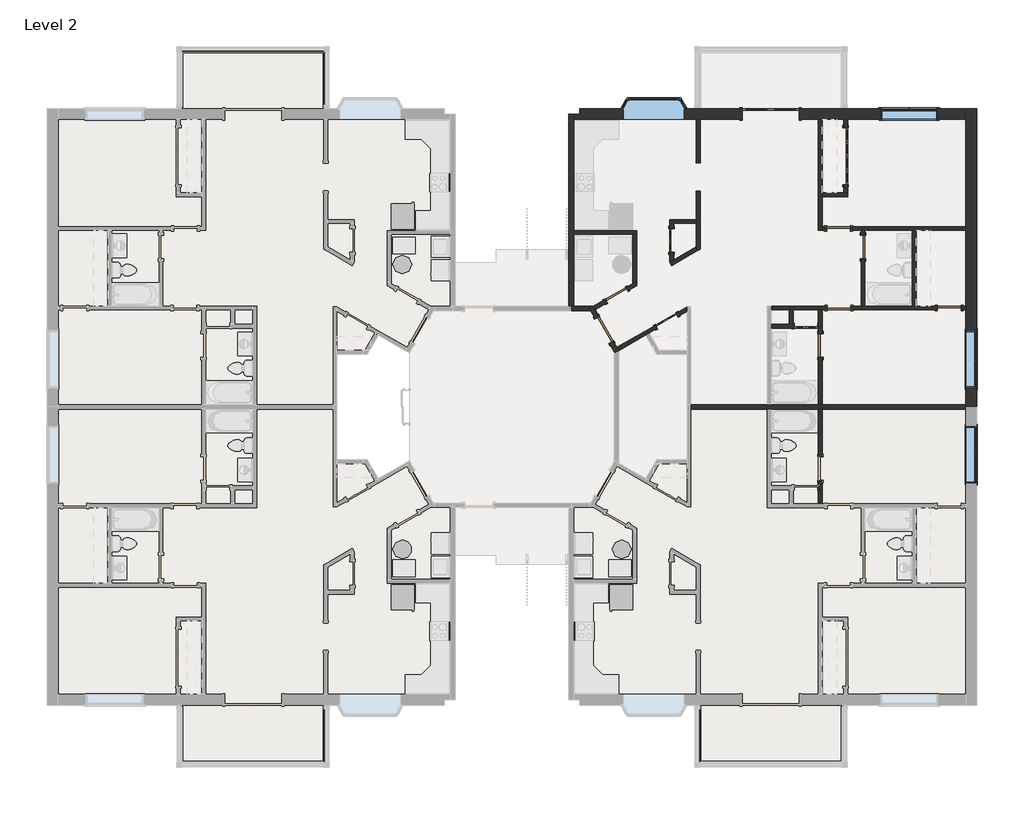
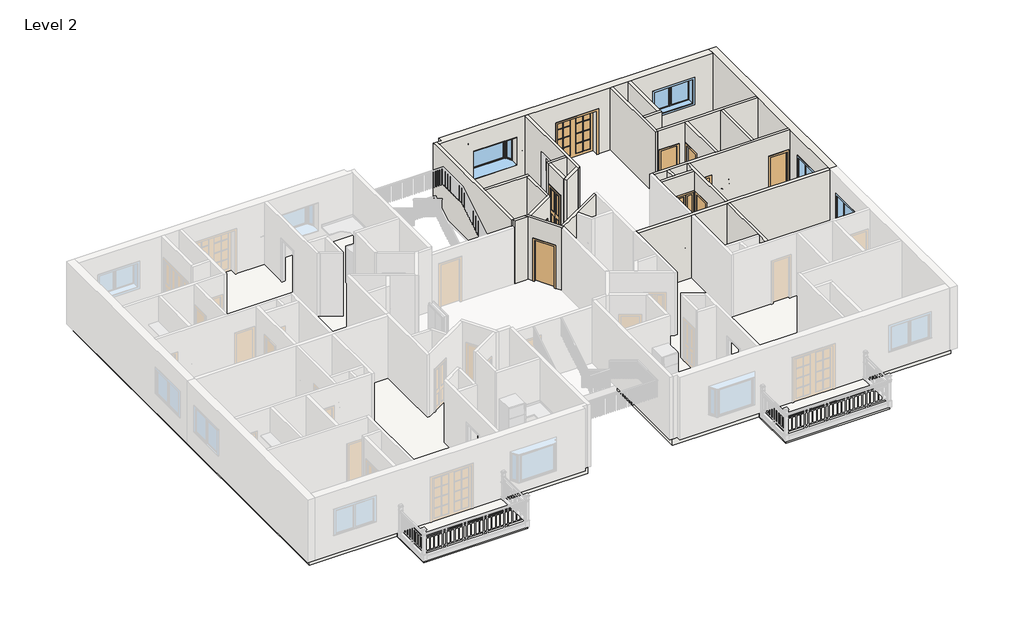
# One storey, part 4 of 5: 25 walls, 12 doors, 4 windows, 3 slabs.
"""IFC4 building model written with IfcOpenShell, lengths in millimetres."""

from ifc_helpers import new_model, si_unit, frame, origin, place, context, project, spatial, polyline, outline, extrude, faceted_brep, transform, mapped, element, save
from components import door_28b41c19, door_77c9d7c5, door_c95ce901, door_0a477ef8, door_91cbdfe0, door_39079f6b, door_140ee3fe, window_fb9100aa, window_565d5888, window_801eb773

model = new_model("IFC4")

# Units and contexts
model_context = context("Model", 3, world=origin())
ifc_project = project(units=[si_unit("LENGTHUNIT", "METRE", prefix="MILLI")], contexts=[model_context])

# Site, building, storey
site = spatial("IfcSite", under=ifc_project)
building = spatial("IfcBuilding", under=site)
storey = spatial("IfcBuildingStorey", under=building, Name="Level 2", Elevation=3048.0)

# Doors
placement = place(None, origin())
door_shape = door_28b41c19(model_context)
element("IfcDoor", 1, ObjectType="Bifold-2 Panel : 30\" x 80\"", at=placement, inside=storey, context=model_context, shape_type="MappedRepresentation", body=[
    mapped(door_shape, transform((8842.0499602, 4399.2713201, 3048.0), x_axis=(1.0, 0.0, 0.0), y_axis=(0.0, 1.0, 0.0), z_axis=(0.0, 0.0, 1.0))),
])
door_2_shape = door_77c9d7c5(model_context)
element("IfcDoor", 2, ObjectType="Bifold-2 Panel : 30\" x 80\"", at=placement, inside=storey, context=model_context, shape_type="MappedRepresentation", body=[
    mapped(door_2_shape, transform((4512.9374602, 7161.5213201, 3048.0), x_axis=(0.0, 1.0, 0.0), y_axis=(-1.0, 0.0, 0.0), z_axis=(0.0, 0.0, 1.0))),
])
element("IfcDoor", 3, ObjectType="Bifold-2 Panel : 30\" x 80\"", at=placement, inside=storey, context=model_context, shape_type="MappedRepresentation", body=[
    mapped(door_2_shape, transform((4356.3593145, 4569.8411376, 3048.0), x_axis=(0.8660254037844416, 0.4999999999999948, 0.0), y_axis=(-0.4999999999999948, 0.8660254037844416, 0.0), z_axis=(0.0, 0.0, 1.0))),
])
door_3_shape = door_c95ce901(model_context)
element("IfcDoor", 4, ObjectType="Bifold-4 Panel : 72\" x 80\"", at=placement, inside=storey, context=model_context, shape_type="MappedRepresentation", body=[
    mapped(door_3_shape, transform((10123.1624602, 9879.3213201, 3048.0), x_axis=(0.0, -1.0, 0.0), y_axis=(1.0, 0.0, 0.0), z_axis=(0.0, 0.0, 1.0))),
])
door_4_shape = door_0a477ef8(model_context)
element("IfcDoor", 5, ObjectType="Double-Glass 2 : 72\" x 84\"", at=placement, inside=storey, context=model_context, shape_type="MappedRepresentation", body=[
    mapped(door_4_shape, transform((7708.5749602, 11238.2213201, 3048.0), x_axis=(1.0, 0.0, 0.0), y_axis=(0.0, 1.0, 0.0), z_axis=(0.0, 0.0, 1.0))),
])
door_5_shape = door_91cbdfe0(model_context)
element("IfcDoor", 6, ObjectType="Single-Flush : 30\" x 80\"", at=placement, inside=storey, context=model_context, shape_type="MappedRepresentation", body=[
    mapped(door_5_shape, transform((9889.7999602, 7545.6963201, 3048.0), x_axis=(-1.0, 0.0, 0.0), y_axis=(0.0, -1.0, 0.0), z_axis=(0.0, 0.0, 1.0))),
])
element("IfcDoor", 7, ObjectType="Single-Flush : 30\" x 80\"", at=placement, inside=storey, context=model_context, shape_type="MappedRepresentation", body=[
    mapped(door_5_shape, transform((2740.2368992, 5400.5472723, 3048.0), x_axis=(-0.866025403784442, -0.49999999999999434, 0.0), y_axis=(0.49999999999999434, -0.866025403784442, 0.0), z_axis=(0.0, 0.0, 1.0))),
])
element("IfcDoor", 8, ObjectType="Single-Flush : 30\" x 80\"", at=placement, inside=storey, context=model_context, shape_type="MappedRepresentation", body=[
    mapped(door_5_shape, transform((10685.1374602, 6950.3838201, 3048.0), x_axis=(0.0, 1.0, 0.0), y_axis=(-1.0, 0.0, 0.0), z_axis=(0.0, 0.0, 1.0))),
])
door_6_shape = door_39079f6b(model_context)
element("IfcDoor", 9, ObjectType="Single-Flush : 30\" x 80\"", at=placement, inside=storey, context=model_context, shape_type="MappedRepresentation", body=[
    mapped(door_6_shape, transform((9905.6749602, 4983.4713201, 3048.0), x_axis=(-1.0, 0.0, 0.0), y_axis=(0.0, -1.0, 0.0), z_axis=(0.0, 0.0, 1.0))),
])
element("IfcDoor", 10, ObjectType="Single-Flush : 30\" x 80\"", at=placement, inside=storey, context=model_context, shape_type="MappedRepresentation", body=[
    mapped(door_6_shape, transform((9310.3624602, 3775.3838201, 3048.0), x_axis=(0.0, 1.0, 0.0), y_axis=(-1.0, 0.0, 0.0), z_axis=(0.0, 0.0, 1.0))),
])
element("IfcDoor", 11, ObjectType="Single-Flush : 30\" x 80\"", at=placement, inside=storey, context=model_context, shape_type="MappedRepresentation", body=[
    mapped(door_6_shape, transform((13461.6749602, 4983.4713201, 3048.0), x_axis=(1.0, 0.0, 0.0), y_axis=(0.0, 1.0, 0.0), z_axis=(0.0, 0.0, 1.0))),
])
door_7_shape = door_140ee3fe(model_context)
element("IfcDoor", 12, ObjectType="Single-Flush : 36\" x 80\"", at=placement, inside=storey, context=model_context, shape_type="MappedRepresentation", body=[
    mapped(door_7_shape, transform((2339.4553258, 4278.6213201, 3048.0), x_axis=(0.4999999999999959, -0.866025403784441, 0.0), y_axis=(0.866025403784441, 0.4999999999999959, 0.0), z_axis=(0.0, 0.0, 1.0))),
])

# Slabs
element("IfcSlab", 13, ObjectType="Generic - 12\"", at=placement, inside=storey, context=model_context, shape_type="SweptSolid", body=[
    extrude(outline(polyline([(-11387.4625398, -7635.5661799), (-15424.4750398, -7635.5661799), (-15424.4750398, 1744.9713201), (-6331.2750398, 1744.9713201), (-6331.2750398, 41.0951778), (-5327.4917096, 41.0951778), (-4955.4044712, -603.3788241), (-3977.9107726, -39.0225741), (-3207.8085908, -1372.8786799), (-2589.5375398, -1372.8786799), (-2589.5375398, -7635.5661799), (-6578.9250398, -7635.5661799), (-6578.9250398, -9769.1661799), (-11387.4625398, -9769.1661799), (-11387.4625398, -7635.5661799)])), frame((0.0, 0.0, 2743.2), z_axis=(0.0, 0.0, 1.0), x_axis=(1.0, 0.0, 0.0)), (0.0, 0.0, 1.0), 304.8),
])
element("IfcSlab", 14, ObjectType="Generic - 12\"", at=placement, inside=storey, context=model_context, shape_type="SweptSolid", body=[
    extrude(outline(polyline([(-11387.4625398, 11227.1088201), (-11387.4625398, 13360.7088201), (-6578.9250398, 13360.7088201), (-6578.9250398, 11227.1088201), (-2589.5375398, 11227.1088201), (-2589.5375398, 4964.4213201), (-3207.8085908, 4964.4213201), (-3977.9107726, 3630.5652142), (-4955.4044712, 4194.9214642), (-5327.4917096, 3550.4474624), (-6331.2750398, 3550.4474624), (-6331.2750398, 1846.5713201), (-15424.4750398, 1846.5713201), (-15424.4750398, 11227.1088201), (-11387.4625398, 11227.1088201)])), frame((0.0, 0.0, 2743.2), z_axis=(0.0, 0.0, 1.0), x_axis=(1.0, 0.0, 0.0)), (0.0, 0.0, 1.0), 304.8),
])
element("IfcSlab", 15, ObjectType="Generic - 12\"", at=placement, inside=storey, context=model_context, shape_type="SweptSolid", body=[
    extrude(outline(polyline([(10123.1624602, -7635.5661799), (10123.1624602, -9769.1661799), (5314.6249602, -9769.1661799), (5314.6249602, -7635.5661799), (1325.2374602, -7635.5661799), (1325.2374602, -1372.8786799), (1943.5085112, -1372.8786799), (2713.610693, -39.0225741), (3691.1043915, -603.3788241), (4063.19163, 41.0951778), (5066.9749602, 41.0951778), (5066.9749602, 1744.9713201), (14160.1749602, 1744.9713201), (14160.1749602, -7635.5661799), (10123.1624602, -7635.5661799)])), frame((0.0, 0.0, 2743.2), z_axis=(0.0, 0.0, 1.0), x_axis=(1.0, 0.0, 0.0)), (0.0, 0.0, 1.0), 304.8),
])

# Walls
element("IfcWall", 16, ObjectType="Exterior - Brick on Mtl. Stud", at=placement, inside=storey, context=model_context, shape_type="Brep", body=[
    faceted_brep([(13995.0749602, 11414.4338201, 3048.0), (8622.9749602, 11414.4338201, 3048.0), (8622.9749602, 11414.4338201, 5181.6), (6794.1749602, 11414.4338201, 5181.6), (6794.1749602, 11414.4338201, 3048.0), (1549.0749602, 11414.4338201, 3048.0), (1549.0749602, 11414.4338201, 6096.0), (6794.1749602, 11414.4338201, 6096.0), (8622.9749602, 11414.4338201, 6096.0), (13995.0749602, 11414.4338201, 6096.0), (4995.4531942, 11414.4338201, 5181.6), (2887.3374602, 11414.4338201, 5181.6), (2887.3374602, 11414.4338201, 3810.0), (4995.4531942, 11414.4338201, 3810.0), (13086.2312102, 11414.4338201, 5181.6), (11257.4312102, 11414.4338201, 5181.6), (11257.4312102, 11414.4338201, 3962.4), (13086.2312102, 11414.4338201, 3962.4), (8622.9749602, 11062.0088201, 5181.6), (8622.9749602, 11062.0088201, 3048.0), (9248.4499602, 11062.0088201, 3048.0), (9372.2749602, 11062.0088201, 3048.0), (10061.2499602, 11062.0088201, 3048.0), (10185.0749602, 11062.0088201, 3048.0), (13995.0749602, 11062.0088201, 3048.0), (13995.0749602, 11062.0088201, 6096.0), (10185.0749602, 11062.0088201, 6096.0), (10061.2499602, 11062.0088201, 6096.0), (9372.2749602, 11062.0088201, 6096.0), (9248.4499602, 11062.0088201, 6096.0), (8622.9749602, 11062.0088201, 6096.0), (6794.1749602, 11062.0088201, 6096.0), (5438.4499602, 11062.0088201, 6096.0), (5314.6249602, 11062.0088201, 6096.0), (1549.0749602, 11062.0088201, 6096.0), (1352.2249602, 11062.0088201, 6096.0), (1352.2249602, 11062.0088201, 3048.0), (1549.0749602, 11062.0088201, 3048.0), (5314.6249602, 11062.0088201, 3048.0), (5438.4499602, 11062.0088201, 3048.0), (6794.1749602, 11062.0088201, 3048.0), (6794.1749602, 11062.0088201, 5181.6), (2954.6373002, 11062.0088201, 5181.6), (4928.2376202, 11062.0088201, 5181.6), (4928.2376202, 11062.0088201, 3810.0), (2954.6373002, 11062.0088201, 3810.0), (13086.2312102, 11062.0088201, 5181.6), (13086.2312102, 11062.0088201, 3962.4), (11257.4312102, 11062.0088201, 3962.4), (11257.4312102, 11062.0088201, 5181.6), (1352.2249602, 11238.2213201, 3048.0), (1549.0749602, 11238.2213201, 3048.0), (1549.0749602, 11238.2213201, 6096.0), (1352.2249602, 11238.2213201, 6096.0), (2954.6373002, 11375.4830814, 5181.6), (4928.2376202, 11375.5317324, 5181.6), (2954.6373002, 11375.4830814, 3810.0), (4928.2376202, 11375.5317324, 3810.0)], [[[0, 1, 2, 3, 4, 5, 6, 7, 8, 9], [10, 11, 12, 13], [14, 15, 16, 17]], [[18, 19, 20, 21, 22, 23, 24, 25, 26, 27, 28, 29, 30, 31, 32, 33, 34, 35, 36, 37, 38, 39, 40, 41], [42, 43, 44, 45], [46, 47, 48, 49]], [[24, 23, 22, 21, 20, 19, 1, 0]], [[40, 39, 38, 37, 36, 50, 51, 5, 4]], [[9, 8, 7, 6, 52, 53, 35, 34, 33, 32, 31, 30, 29, 28, 27, 26, 25]], [[0, 9, 25, 24]], [[6, 5, 51, 52]], [[51, 50, 53, 52]], [[50, 36, 35, 53]], [[2, 1, 19, 18]], [[3, 2, 18, 41]], [[4, 3, 41, 40]], [[54, 11, 10, 55, 43, 42]], [[56, 45, 44, 57, 13, 12]], [[54, 42, 45, 56]], [[43, 55, 57, 44]], [[55, 10, 13, 57]], [[11, 54, 56, 12]], [[47, 46, 14, 17]], [[48, 47, 17, 16]], [[49, 48, 16, 15]], [[46, 49, 15, 14]]]),
])
element("IfcWall", 17, ObjectType="Exterior - Brick on Mtl. Stud", at=placement, inside=storey, context=model_context, shape_type="Brep", body=[
    faceted_brep([(14347.4999602, 1795.7713201, 3048.0), (14347.4999602, 11414.4338201, 3048.0), (14347.4999602, 11414.4338201, 6096.0), (14347.4999602, 1795.7713201, 6096.0), (14347.4999602, 2421.2463201, 5181.6), (14347.4999602, 4250.0463201, 5181.6), (14347.4999602, 4250.0463201, 3962.4), (14347.4999602, 2421.2463201, 3962.4), (13995.0749602, 1795.7713201, 3048.0), (13995.0749602, 1795.7713201, 6096.0), (13995.0749602, 1873.5588201, 6096.0), (13995.0749602, 4921.5588201, 6096.0), (13995.0749602, 5045.3838201, 6096.0), (13995.0749602, 7483.7838201, 6096.0), (13995.0749602, 7607.6088201, 6096.0), (13995.0749602, 11062.0088201, 6096.0), (13995.0749602, 11414.4338201, 6096.0), (13995.0749602, 11414.4338201, 3048.0), (13995.0749602, 11062.0088201, 3048.0), (13995.0749602, 7607.6088201, 3048.0), (13995.0749602, 7483.7838201, 3048.0), (13995.0749602, 5045.3838201, 3048.0), (13995.0749602, 4921.5588201, 3048.0), (13995.0749602, 1873.5588201, 3048.0), (13995.0749602, 2421.2463201, 5181.6), (13995.0749602, 2421.2463201, 3962.4), (13995.0749602, 4250.0463201, 3962.4), (13995.0749602, 4250.0463201, 5181.6)], [[[0, 1, 2, 3], [4, 5, 6, 7]], [[8, 9, 10, 11, 12, 13, 14, 15, 16, 17, 18, 19, 20, 21, 22, 23], [24, 25, 26, 27]], [[1, 0, 8, 23, 22, 21, 20, 19, 18, 17]], [[3, 2, 16, 15, 14, 13, 12, 11, 10, 9]], [[0, 3, 9, 8]], [[2, 1, 17, 16]], [[25, 24, 4, 7]], [[26, 25, 7, 6]], [[27, 26, 6, 5]], [[24, 27, 5, 4]]]),
])
element("IfcWall", 18, ObjectType="Generic - 6\" Masonry", at=placement, inside=storey, context=model_context, shape_type="Brep", body=[
    faceted_brep([(1819.7751316, 5035.8588201, 3048.0), (1352.2249602, 5035.8588201, 3048.0), (1274.4374602, 5035.8588201, 3048.0), (1274.4374602, 5035.8588201, 5791.2), (1274.4374602, 5035.8588201, 6096.0), (1352.2249602, 5035.8588201, 6096.0), (1819.7751316, 5035.8588201, 6096.0), (1902.2640513, 4892.9838201, 3048.0), (1902.2640513, 4892.9838201, 6096.0), (1274.4374602, 4892.9838201, 6096.0), (1274.4374602, 4892.9838201, 5791.2), (1274.4374602, 4892.9838201, 3048.0)], [[[0, 1, 2, 3, 4, 5, 6]], [[7, 8, 9, 10, 11]], [[2, 1, 0, 7, 11]], [[4, 3, 2, 11, 10, 9]], [[6, 5, 4, 9, 8]], [[0, 6, 8, 7]]]),
])
element("IfcWall", 19, ObjectType="Generic - 6\" Masonry", at=placement, inside=storey, context=model_context, shape_type="Brep", body=[
    faceted_brep([(2810.4023827, 3605.7920898, 3048.0), (2748.4898827, 3713.0276854, 3048.0), (2629.9220156, 3918.3932555, 3048.0), (2629.9220156, 3918.3932555, 5080.0), (2172.7220156, 4710.2868847, 5080.0), (2172.7220156, 4710.2868847, 3048.0), (2046.665471, 4928.6232245, 3048.0), (1984.752971, 5035.8588201, 3048.0), (1984.752971, 5035.8588201, 6096.0), (2046.665471, 4928.6232245, 6096.0), (2748.4898827, 3713.0276854, 6096.0), (2810.4023827, 3605.7920898, 6096.0), (2506.188636, 3846.9557555, 5080.0), (2506.188636, 3846.9557555, 3048.0), (2667.5273827, 3567.5088489, 3048.0), (2686.6690032, 3534.3545898, 3048.0), (2686.6690032, 3534.3545898, 6096.0), (2667.5273827, 3567.5088489, 6096.0), (1902.2640513, 4892.9838201, 6096.0), (1819.7751316, 5035.8588201, 6096.0), (1819.7751316, 5035.8588201, 3048.0), (1902.2640513, 4892.9838201, 3048.0), (2048.988636, 4638.8493847, 3048.0), (2048.988636, 4638.8493847, 5080.0)], [[[0, 1, 2, 3, 4, 5, 6, 7, 8, 9, 10, 11]], [[12, 13, 14, 15, 16, 17, 18, 19, 20, 21, 22, 23]], [[15, 14, 13, 2, 1, 0]], [[22, 21, 20, 7, 6, 5]], [[11, 10, 9, 8, 19, 18, 17, 16]], [[0, 11, 16, 15]], [[8, 7, 20, 19]], [[3, 2, 13, 12]], [[4, 3, 12, 23]], [[5, 4, 23, 22]]]),
])
element("IfcWall", 20, ObjectType="Interior - 4 7/8\" Partition (1-hr)", at=placement, inside=storey, context=model_context, shape_type="Brep", body=[
    faceted_brep([(9372.2749602, -1330.0161799, 3048.0), (9372.2749602, -564.8411799, 3048.0), (9372.2749602, -564.8411799, 5080.0), (9372.2749602, 197.1588201, 5080.0), (9372.2749602, 197.1588201, 3048.0), (9372.2749602, 1717.9838201, 3048.0), (9372.2749602, 1717.9838201, 6096.0), (9372.2749602, -1330.0161799, 6096.0), (9248.4499602, -564.8411799, 5080.0), (9248.4499602, -564.8411799, 3048.0), (9248.4499602, -745.8161799, 3048.0), (9248.4499602, -869.6411799, 3048.0), (9248.4499602, -1330.0161799, 3048.0), (9248.4499602, -1330.0161799, 6096.0), (9248.4499602, -869.6411799, 6096.0), (9248.4499602, -745.8161799, 6096.0), (9248.4499602, 1717.9838201, 6096.0), (9248.4499602, 1717.9838201, 3048.0), (9248.4499602, 197.1588201, 3048.0), (9248.4499602, 197.1588201, 5080.0)], [[[0, 1, 2, 3, 4, 5, 6, 7]], [[8, 9, 10, 11, 12, 13, 14, 15, 16, 17, 18, 19]], [[12, 11, 10, 9, 1, 0]], [[18, 17, 5, 4]], [[7, 6, 16, 15, 14, 13]], [[0, 7, 13, 12]], [[6, 5, 17, 16]], [[2, 1, 9, 8]], [[3, 2, 8, 19]], [[4, 3, 19, 18]]]),
])
element("IfcWall", 21, ObjectType="Interior - 4 7/8\" Partition (1-hr)", at=placement, inside=storey, context=model_context, shape_type="Brep", body=[
    faceted_brep([(5314.6249602, 11062.0088201, 3048.0), (5314.6249602, 9663.4213201, 3048.0), (5314.6249602, 9663.4213201, 5080.0), (5314.6249602, 8749.0213201, 5080.0), (5314.6249602, 8749.0213201, 3048.0), (5314.6249602, 7836.2088201, 3048.0), (5314.6249602, 7712.3838201, 3048.0), (5314.6249602, 6958.3613094, 3048.0), (5314.6249602, 6815.3805152, 3048.0), (5314.6249602, 6815.3805152, 6096.0), (5314.6249602, 6958.3613094, 6096.0), (5314.6249602, 7712.3838201, 6096.0), (5314.6249602, 7836.2088201, 6096.0), (5314.6249602, 11062.0088201, 6096.0), (5438.4499602, 9663.4213201, 5080.0), (5438.4499602, 9663.4213201, 3048.0), (5438.4499602, 11062.0088201, 3048.0), (5438.4499602, 11062.0088201, 6096.0), (5438.4499602, 6886.8709123, 6096.0), (5438.4499602, 6886.8709123, 3048.0), (5438.4499602, 8749.0213201, 3048.0), (5438.4499602, 8749.0213201, 5080.0)], [[[0, 1, 2, 3, 4, 5, 6, 7, 8, 9, 10, 11, 12, 13]], [[14, 15, 16, 17, 18, 19, 20, 21]], [[16, 15, 1, 0]], [[20, 19, 8, 7, 6, 5, 4]], [[13, 12, 11, 10, 9, 18, 17]], [[9, 8, 19, 18]], [[0, 13, 17, 16]], [[4, 3, 21, 20]], [[2, 1, 15, 14]], [[3, 2, 14, 21]]]),
])
element("IfcWall", 22, ObjectType="Interior - 4 7/8\" Partition (1-hr)", at=placement, inside=storey, context=model_context, shape_type="Brep", body=[
    faceted_brep([(9248.4499602, 11062.0088201, 3048.0), (9248.4499602, 7483.7838201, 3048.0), (9248.4499602, 7483.7838201, 6096.0), (9248.4499602, 11062.0088201, 6096.0), (9372.2749602, 11062.0088201, 3048.0), (9372.2749602, 11062.0088201, 6096.0), (9372.2749602, 8696.6338201, 6096.0), (9372.2749602, 8572.8088201, 6096.0), (9372.2749602, 7607.6088201, 6096.0), (9372.2749602, 7483.7838201, 6096.0), (9372.2749602, 7483.7838201, 3048.0), (9372.2749602, 7607.6088201, 3048.0), (9372.2749602, 8572.8088201, 3048.0), (9372.2749602, 8696.6338201, 3048.0)], [[[0, 1, 2, 3]], [[4, 5, 6, 7, 8, 9, 10, 11, 12, 13]], [[1, 0, 4, 13, 12, 11, 10]], [[3, 2, 9, 8, 7, 6, 5]], [[2, 1, 10, 9]], [[0, 3, 5, 4]]]),
])
element("IfcWall", 23, ObjectType="Interior - 4 7/8\" Partition (1-hr)", at=placement, inside=storey, context=model_context, shape_type="Brep", body=[
    faceted_brep([(9372.2749602, 7483.7838201, 3048.0), (9508.7999602, 7483.7838201, 3048.0), (9508.7999602, 7483.7838201, 5080.0), (10270.7999602, 7483.7838201, 5080.0), (10270.7999602, 7483.7838201, 3048.0), (10623.2249602, 7483.7838201, 3048.0), (10747.0499602, 7483.7838201, 3048.0), (12271.0499602, 7483.7838201, 3048.0), (12394.8749602, 7483.7838201, 3048.0), (13995.0749602, 7483.7838201, 3048.0), (13995.0749602, 7483.7838201, 6096.0), (12394.8749602, 7483.7838201, 6096.0), (12271.0499602, 7483.7838201, 6096.0), (10747.0499602, 7483.7838201, 6096.0), (10623.2249602, 7483.7838201, 6096.0), (9372.2749602, 7483.7838201, 6096.0), (9508.7999602, 7607.6088201, 5080.0), (9508.7999602, 7607.6088201, 3048.0), (9372.2749602, 7607.6088201, 3048.0), (9372.2749602, 7607.6088201, 6096.0), (13995.0749602, 7607.6088201, 6096.0), (13995.0749602, 7607.6088201, 3048.0), (10270.7999602, 7607.6088201, 3048.0), (10270.7999602, 7607.6088201, 5080.0)], [[[0, 1, 2, 3, 4, 5, 6, 7, 8, 9, 10, 11, 12, 13, 14, 15]], [[16, 17, 18, 19, 20, 21, 22, 23]], [[18, 17, 1, 0]], [[22, 21, 9, 8, 7, 6, 5, 4]], [[15, 14, 13, 12, 11, 10, 20, 19]], [[10, 9, 21, 20]], [[0, 15, 19, 18]], [[2, 1, 17, 16]], [[3, 2, 16, 23]], [[4, 3, 23, 22]]]),
])
element("IfcWall", 24, ObjectType="Interior - 4 7/8\" Partition (1-hr)", at=placement, inside=storey, context=model_context, shape_type="SweptSolid", body=[
    extrude(outline(polyline([(7483.7838201, 3048.0), (7331.3838201, 3048.0), (7331.3838201, 5080.0), (6569.3838201, 5080.0), (6569.3838201, 3048.0), (5045.3838201, 3048.0), (5045.3838201, 6096.0), (7483.7838201, 6096.0), (7483.7838201, 3048.0)])), frame((10623.2249602, 0.0, 0.0), z_axis=(1.0, 0.0, 0.0), x_axis=(0.0, 1.0, 0.0)), (0.0, 0.0, 1.0), 123.825),
])
element("IfcWall", 25, ObjectType="Interior - 4 7/8\" Partition (1-hr)", at=placement, inside=storey, context=model_context, shape_type="Brep", body=[
    faceted_brep([(9248.4499602, 4921.5588201, 3048.0), (9248.4499602, 4461.1838201, 3048.0), (9248.4499602, 4337.3588201, 3048.0), (9248.4499602, 4156.3838201, 3048.0), (9248.4499602, 4156.3838201, 5080.0), (9248.4499602, 3394.3838201, 5080.0), (9248.4499602, 3394.3838201, 3048.0), (9248.4499602, 1873.5588201, 3048.0), (9248.4499602, 1873.5588201, 6096.0), (9248.4499602, 4337.3588201, 6096.0), (9248.4499602, 4461.1838201, 6096.0), (9248.4499602, 4921.5588201, 6096.0), (9372.2749602, 4156.3838201, 5080.0), (9372.2749602, 4156.3838201, 3048.0), (9372.2749602, 4921.5588201, 3048.0), (9372.2749602, 4921.5588201, 6096.0), (9372.2749602, 1873.5588201, 6096.0), (9372.2749602, 1873.5588201, 3048.0), (9372.2749602, 3394.3838201, 3048.0), (9372.2749602, 3394.3838201, 5080.0)], [[[0, 1, 2, 3, 4, 5, 6, 7, 8, 9, 10, 11]], [[12, 13, 14, 15, 16, 17, 18, 19]], [[14, 13, 3, 2, 1, 0]], [[18, 17, 7, 6]], [[11, 10, 9, 8, 16, 15]], [[0, 11, 15, 14]], [[8, 7, 17, 16]], [[4, 3, 13, 12]], [[5, 4, 12, 19]], [[6, 5, 19, 18]]]),
])
element("IfcWall", 26, ObjectType="Interior - 4 7/8\" Partition (1-hr)", at=placement, inside=storey, context=model_context, shape_type="Brep", body=[
    faceted_brep([(9372.2749602, 8572.8088201, 3048.0), (10185.0749602, 8572.8088201, 3048.0), (10185.0749602, 8572.8088201, 6096.0), (9372.2749602, 8572.8088201, 6096.0), (9372.2749602, 8696.6338201, 3048.0), (9372.2749602, 8696.6338201, 6096.0), (10061.2499602, 8696.6338201, 6096.0), (10185.0749602, 8696.6338201, 6096.0), (10185.0749602, 8696.6338201, 3048.0), (10061.2499602, 8696.6338201, 3048.0)], [[[0, 1, 2, 3]], [[4, 5, 6, 7, 8, 9]], [[1, 0, 4, 9, 8]], [[3, 2, 7, 6, 5]], [[2, 1, 8, 7]], [[0, 3, 5, 4]]]),
])
element("IfcWall", 27, ObjectType="Interior - 4 7/8\" Partition (1-hr)", at=placement, inside=storey, context=model_context, shape_type="SweptSolid", body=[
    extrude(outline(polyline([(8964.9213201, 5080.0), (8964.9213201, 3048.0), (8696.6338201, 3048.0), (8696.6338201, 6096.0), (11062.0088201, 6096.0), (11062.0088201, 3048.0), (10793.7213201, 3048.0), (10793.7213201, 5080.0), (8964.9213201, 5080.0)])), frame((10061.2499602, 0.0, 0.0), z_axis=(1.0, 0.0, 0.0), x_axis=(0.0, 1.0, 0.0)), (0.0, 0.0, 1.0), 123.825),
])
element("IfcWall", 28, ObjectType="Interior - 4 7/8\" Partition (1-hr)", at=placement, inside=storey, context=model_context, shape_type="SweptSolid", body=[
    extrude(outline(polyline([(12271.0499602, 5045.3838201), (12271.0499602, 7483.7838201), (12394.8749602, 7483.7838201), (12394.8749602, 5045.3838201), (12271.0499602, 5045.3838201)])), frame((0.0, 0.0, 3048.0), z_axis=(0.0, 0.0, 1.0), x_axis=(1.0, 0.0, 0.0)), (0.0, 0.0, 1.0), 3048.0),
])
element("IfcWall", 29, ObjectType="Interior - 4 7/8\" Partition (1-hr)", at=placement, inside=storey, context=model_context, shape_type="Brep", body=[
    faceted_brep([(13995.0749602, 5045.3838201, 3048.0), (13842.6749602, 5045.3838201, 3048.0), (13842.6749602, 5045.3838201, 5080.0), (13080.6749602, 5045.3838201, 5080.0), (13080.6749602, 5045.3838201, 3048.0), (12394.8749602, 5045.3838201, 3048.0), (12271.0499602, 5045.3838201, 3048.0), (10747.0499602, 5045.3838201, 3048.0), (10623.2249602, 5045.3838201, 3048.0), (10286.6749602, 5045.3838201, 3048.0), (10286.6749602, 5045.3838201, 5080.0), (9524.6749602, 5045.3838201, 5080.0), (9524.6749602, 5045.3838201, 3048.0), (7724.4499602, 5045.3838201, 3048.0), (7724.4499602, 5045.3838201, 6096.0), (10623.2249602, 5045.3838201, 6096.0), (10747.0499602, 5045.3838201, 6096.0), (12271.0499602, 5045.3838201, 6096.0), (12394.8749602, 5045.3838201, 6096.0), (13995.0749602, 5045.3838201, 6096.0), (13842.6749602, 4921.5588201, 5080.0), (13842.6749602, 4921.5588201, 3048.0), (13995.0749602, 4921.5588201, 3048.0), (13995.0749602, 4921.5588201, 6096.0), (9372.2749602, 4921.5588201, 6096.0), (9248.4499602, 4921.5588201, 6096.0), (8435.6499602, 4921.5588201, 6096.0), (8311.8249602, 4921.5588201, 6096.0), (7724.4499602, 4921.5588201, 6096.0), (7724.4499602, 4921.5588201, 3048.0), (8311.8249602, 4921.5588201, 3048.0), (8435.6499602, 4921.5588201, 3048.0), (9248.4499602, 4921.5588201, 3048.0), (9372.2749602, 4921.5588201, 3048.0), (9524.6749602, 4921.5588201, 3048.0), (9524.6749602, 4921.5588201, 5080.0), (10286.6749602, 4921.5588201, 5080.0), (10286.6749602, 4921.5588201, 3048.0), (13080.6749602, 4921.5588201, 3048.0), (13080.6749602, 4921.5588201, 5080.0)], [[[0, 1, 2, 3, 4, 5, 6, 7, 8, 9, 10, 11, 12, 13, 14, 15, 16, 17, 18, 19]], [[20, 21, 22, 23, 24, 25, 26, 27, 28, 29, 30, 31, 32, 33, 34, 35, 36, 37, 38, 39]], [[13, 12, 34, 33, 32, 31, 30, 29]], [[22, 21, 1, 0]], [[38, 37, 9, 8, 7, 6, 5, 4]], [[19, 18, 17, 16, 15, 14, 28, 27, 26, 25, 24, 23]], [[14, 13, 29, 28]], [[0, 19, 23, 22]], [[35, 34, 12, 11]], [[36, 35, 11, 10]], [[37, 36, 10, 9]], [[2, 1, 21, 20]], [[3, 2, 20, 39]], [[4, 3, 39, 38]]]),
])
element("IfcWall", 30, ObjectType="Interior - 4 7/8\" Partition (1-hr)", at=placement, inside=storey, context=model_context, shape_type="Brep", body=[
    faceted_brep([(5314.6249602, 7836.2088201, 3048.0), (4451.0249602, 7836.2088201, 3048.0), (4451.0249602, 7836.2088201, 6096.0), (5314.6249602, 7836.2088201, 6096.0), (5314.6249602, 7712.3838201, 3048.0), (5314.6249602, 7712.3838201, 6096.0), (4574.8499602, 7712.3838201, 6096.0), (4451.0249602, 7712.3838201, 6096.0), (4451.0249602, 7712.3838201, 3048.0), (4574.8499602, 7712.3838201, 3048.0)], [[[0, 1, 2, 3]], [[4, 5, 6, 7, 8, 9]], [[1, 0, 4, 9, 8]], [[3, 2, 7, 6, 5]], [[2, 1, 8, 7]], [[0, 3, 5, 4]]]),
])
element("IfcWall", 31, ObjectType="Interior - 4 7/8\" Partition (1-hr)", at=placement, inside=storey, context=model_context, shape_type="Brep", body=[
    faceted_brep([(4451.0249602, 7712.3838201, 3048.0), (4451.0249602, 7542.5213201, 3048.0), (4451.0249602, 7542.5213201, 5080.0), (4451.0249602, 6780.5213201, 5080.0), (4451.0249602, 6780.5213201, 3048.0), (4451.0249602, 6459.7616169, 3048.0), (4451.0249602, 6459.7616169, 6096.0), (4451.0249602, 7712.3838201, 6096.0), (4574.8499602, 7542.5213201, 5080.0), (4574.8499602, 7542.5213201, 3048.0), (4574.8499602, 7712.3838201, 3048.0), (4574.8499602, 7712.3838201, 6096.0), (4574.8499602, 6531.252014, 6096.0), (4574.8499602, 6531.252014, 3048.0), (4574.8499602, 6780.5213201, 3048.0), (4574.8499602, 6780.5213201, 5080.0)], [[[0, 1, 2, 3, 4, 5, 6, 7]], [[8, 9, 10, 11, 12, 13, 14, 15]], [[10, 9, 1, 0]], [[14, 13, 5, 4]], [[7, 6, 12, 11]], [[6, 5, 13, 12]], [[0, 7, 11, 10]], [[2, 1, 9, 8]], [[3, 2, 8, 15]], [[4, 3, 15, 14]]]),
])
element("IfcWall", 32, ObjectType="Interior - 4 7/8\" Partition (1-hr)", at=placement, inside=storey, context=model_context, shape_type="Brep", body=[
    faceted_brep([(2046.665471, 4928.6232245, 3048.0), (2441.2374703, 5156.4294745, 3048.0), (2441.2374703, 5156.4294745, 5080.0), (3101.148828, 5537.4294745, 5080.0), (3101.148828, 5537.4294745, 3048.0), (3384.2249602, 5700.8635556, 3048.0), (3384.2249602, 5700.8635556, 6096.0), (2046.665471, 4928.6232245, 6096.0), (2379.3249703, 5263.6650701, 5080.0), (2379.3249703, 5263.6650701, 3048.0), (1984.752971, 5035.8588201, 3048.0), (1984.752971, 5035.8588201, 6096.0), (3260.3999602, 5772.3539527, 6096.0), (3384.2249602, 5843.8443497, 6096.0), (3384.2249602, 5843.8443497, 3048.0), (3260.3999602, 5772.3539527, 3048.0), (3039.236328, 5644.6650701, 3048.0), (3039.236328, 5644.6650701, 5080.0)], [[[0, 1, 2, 3, 4, 5, 6, 7]], [[8, 9, 10, 11, 12, 13, 14, 15, 16, 17]], [[10, 9, 1, 0]], [[16, 15, 14, 5, 4]], [[7, 6, 13, 12, 11]], [[6, 5, 14, 13]], [[0, 7, 11, 10]], [[2, 1, 9, 8]], [[3, 2, 8, 17]], [[4, 3, 17, 16]]]),
])
element("IfcWall", 33, ObjectType="Interior - 4 7/8\" Partition (1-hr)", at=placement, inside=storey, context=model_context, shape_type="Brep", body=[
    faceted_brep([(3384.2249602, 7480.6088201, 3048.0), (1352.2249602, 7480.6088201, 3048.0), (1352.2249602, 7480.6088201, 6096.0), (3384.2249602, 7480.6088201, 6096.0), (3384.2249602, 7356.7838201, 3048.0), (3384.2249602, 7356.7838201, 6096.0), (3260.3999602, 7356.7838201, 6096.0), (1352.2249602, 7356.7838201, 6096.0), (1352.2249602, 7356.7838201, 3048.0), (3260.3999602, 7356.7838201, 3048.0)], [[[0, 1, 2, 3]], [[4, 5, 6, 7, 8, 9]], [[1, 0, 4, 9, 8]], [[3, 2, 7, 6, 5]], [[0, 3, 5, 4]], [[2, 1, 8, 7]]]),
])
element("IfcWall", 34, ObjectType="Interior - 4 7/8\" Partition (1-hr)", at=placement, inside=storey, context=model_context, shape_type="SweptSolid", body=[
    extrude(outline(polyline([(3260.3999602, 5772.3539527), (3260.3999602, 7356.7838201), (3384.2249602, 7356.7838201), (3384.2249602, 5843.8443497), (3260.3999602, 5772.3539527)])), frame((0.0, 0.0, 3048.0), z_axis=(0.0, 0.0, 1.0), x_axis=(1.0, 0.0, 0.0)), (0.0, 0.0, 1.0), 3048.0),
])
element("IfcWall", 35, ObjectType="Interior - 4 7/8\" Partition (1-hr)", at=placement, inside=storey, context=model_context, shape_type="Brep", body=[
    faceted_brep([(4512.9374602, 6352.5260213, 3048.0), (5314.6249602, 6815.3805152, 3048.0), (5314.6249602, 6815.3805152, 6096.0), (4512.9374602, 6352.5260213, 6096.0), (4451.0249602, 6459.7616169, 3048.0), (4451.0249602, 6459.7616169, 6096.0), (4574.8499602, 6531.252014, 6096.0), (5314.6249602, 6958.3613094, 6096.0), (5314.6249602, 6958.3613094, 3048.0), (4574.8499602, 6531.252014, 3048.0)], [[[0, 1, 2, 3]], [[4, 5, 6, 7, 8, 9]], [[1, 0, 4, 9, 8]], [[3, 2, 7, 6, 5]], [[0, 3, 5, 4]], [[2, 1, 8, 7]]]),
])
element("IfcWall", 36, ObjectType="Interior - 4 7/8\" Partition (1-hr)", at=placement, inside=storey, context=model_context, shape_type="Brep", body=[
    faceted_brep([(5012.9999602, 5020.4431882, 3048.0), (4655.3587434, 4813.9589354, 3048.0), (4655.3587434, 4813.9589354, 5080.0), (3995.4473857, 4432.9589354, 5080.0), (3995.4473857, 4432.9589354, 3048.0), (2748.4898827, 3713.0276854, 3048.0), (2748.4898827, 3713.0276854, 6096.0), (5012.9999602, 5020.4431882, 6096.0), (4717.2712434, 4706.7233398, 5080.0), (4717.2712434, 4706.7233398, 3048.0), (5012.9999602, 4877.462394, 3048.0), (5012.9999602, 4877.462394, 6096.0), (3786.521266, 4169.3545898, 6096.0), (3679.2856704, 4107.4420898, 6096.0), (2810.4023827, 3605.7920898, 6096.0), (2810.4023827, 3605.7920898, 3048.0), (3679.2856704, 4107.4420898, 3048.0), (3786.521266, 4169.3545898, 3048.0), (4057.3598857, 4325.7233398, 3048.0), (4057.3598857, 4325.7233398, 5080.0)], [[[0, 1, 2, 3, 4, 5, 6, 7]], [[8, 9, 10, 11, 12, 13, 14, 15, 16, 17, 18, 19]], [[10, 9, 1, 0]], [[18, 17, 16, 15, 5, 4]], [[7, 6, 14, 13, 12, 11]], [[6, 5, 15, 14]], [[0, 7, 11, 10]], [[2, 1, 9, 8]], [[3, 2, 8, 19]], [[4, 3, 19, 18]]]),
])
element("IfcWall", 37, ObjectType="Interior - 4 7/8\" Partition (1-hr)", at=placement, inside=storey, context=model_context, shape_type="Brep", body=[
    faceted_brep([(9248.4499602, 4337.3588201, 6096.0), (7724.4499602, 4337.3588201, 6096.0), (7724.4499602, 4337.3588201, 3048.0), (8461.0499602, 4337.3588201, 3048.0), (8461.0499602, 4337.3588201, 5080.0), (9223.0499602, 4337.3588201, 5080.0), (9223.0499602, 4337.3588201, 3048.0), (9248.4499602, 4337.3588201, 3048.0), (7724.4499602, 4461.1838201, 6096.0), (8311.8249602, 4461.1838201, 6096.0), (8435.6499602, 4461.1838201, 6096.0), (9248.4499602, 4461.1838201, 6096.0), (9248.4499602, 4461.1838201, 3048.0), (9223.0499602, 4461.1838201, 3048.0), (9223.0499602, 4461.1838201, 5080.0), (8461.0499602, 4461.1838201, 5080.0), (8461.0499602, 4461.1838201, 3048.0), (8435.6499602, 4461.1838201, 3048.0), (8311.8249602, 4461.1838201, 3048.0), (7724.4499602, 4461.1838201, 3048.0)], [[[0, 1, 2, 3, 4, 5, 6, 7]], [[8, 9, 10, 11, 12, 13, 14, 15, 16, 17, 18, 19]], [[2, 19, 18, 17, 16, 3]], [[12, 7, 6, 13]], [[1, 0, 11, 10, 9, 8]], [[5, 14, 13, 6]], [[14, 5, 4, 15]], [[15, 4, 3, 16]], [[2, 1, 8, 19]], [[0, 7, 12, 11]]]),
])
element("IfcWall", 38, ObjectType="Interior - 4 7/8\" Partition (1-hr)", at=placement, inside=storey, context=model_context, shape_type="SweptSolid", body=[
    extrude(outline(polyline([(8435.6499602, 4921.5588201), (8435.6499602, 4461.1838201), (8311.8249602, 4461.1838201), (8311.8249602, 4921.5588201), (8435.6499602, 4921.5588201)])), frame((0.0, 0.0, 3048.0), z_axis=(0.0, 0.0, 1.0), x_axis=(1.0, 0.0, 0.0)), (0.0, 0.0, 1.0), 3048.0),
])
element("IfcWall", 39, ObjectType="Interior - 6 1/8\" Partition (2-hr)", at=placement, inside=storey, context=model_context, shape_type="Brep", body=[
    faceted_brep([(5136.8249602, 1717.9838201, 3048.0), (7600.6249602, 1717.9838201, 3048.0), (7724.4499602, 1717.9838201, 3048.0), (9248.4499602, 1717.9838201, 3048.0), (9372.2749602, 1717.9838201, 3048.0), (13995.0749602, 1717.9838201, 3048.0), (13995.0749602, 1717.9838201, 6096.0), (9372.2749602, 1717.9838201, 6096.0), (9248.4499602, 1717.9838201, 6096.0), (7724.4499602, 1717.9838201, 6096.0), (7600.6249602, 1717.9838201, 6096.0), (5136.8249602, 1717.9838201, 6096.0), (5136.8249602, 1873.5588201, 3048.0), (5136.8249602, 1873.5588201, 6096.0), (7600.6249602, 1873.5588201, 6096.0), (7724.4499602, 1873.5588201, 6096.0), (9248.4499602, 1873.5588201, 6096.0), (9372.2749602, 1873.5588201, 6096.0), (13995.0749602, 1873.5588201, 6096.0), (13995.0749602, 1873.5588201, 3048.0), (9372.2749602, 1873.5588201, 3048.0), (9248.4499602, 1873.5588201, 3048.0), (7724.4499602, 1873.5588201, 3048.0), (7600.6249602, 1873.5588201, 3048.0), (13995.0749602, 1795.7713201, 3048.0), (13995.0749602, 1795.7713201, 6096.0)], [[[0, 1, 2, 3, 4, 5, 6, 7, 8, 9, 10, 11]], [[12, 13, 14, 15, 16, 17, 18, 19, 20, 21, 22, 23]], [[5, 4, 3, 2, 1, 0, 12, 23, 22, 21, 20, 19, 24]], [[11, 10, 9, 8, 7, 6, 25, 18, 17, 16, 15, 14, 13]], [[0, 11, 13, 12]], [[6, 5, 24, 19, 18, 25]]]),
])
element("IfcWall", 40, ObjectType="Interior - 6 1/8\" Partition (2-hr)", at=placement, inside=storey, context=model_context, shape_type="Brep", body=[
    faceted_brep([(1352.2249602, 5035.8588201, 6096.0), (1352.2249602, 5035.8588201, 3048.0), (1352.2249602, 7356.7838201, 3048.0), (1352.2249602, 7480.6088201, 3048.0), (1352.2249602, 11062.0088201, 3048.0), (1352.2249602, 11238.2213201, 3048.0), (1352.2249602, 11238.2213201, 6096.0), (1352.2249602, 11062.0088201, 6096.0), (1352.2249602, 7480.6088201, 6096.0), (1352.2249602, 7356.7838201, 6096.0), (1196.6499602, 5035.8588201, 3048.0), (1196.6499602, 5035.8588201, 6096.0), (1196.6499602, 11062.0088201, 6096.0), (1196.6499602, 11238.2213201, 6096.0), (1196.6499602, 11238.2213201, 3048.0), (1196.6499602, 11062.0088201, 3048.0), (1274.4374602, 5035.8588201, 3048.0), (1274.4374602, 5035.8588201, 6096.0)], [[[0, 1, 2, 3, 4, 5, 6, 7, 8, 9]], [[10, 11, 12, 13, 14, 15]], [[5, 4, 3, 2, 1, 16, 10, 15, 14]], [[6, 5, 14, 13]], [[0, 9, 8, 7, 6, 13, 12, 11, 17]], [[0, 17, 11, 10, 16, 1]]]),
])

# Windows
window_shape = window_fb9100aa(model_context)
element("IfcWindow", 41, ObjectType="Bay-30 Deg : 84\" x 54\"", at=placement, inside=storey, context=model_context, shape_type="MappedRepresentation", body=[
    mapped(window_shape, transform((3941.4861112, 11238.2213201, 3048.0), x_axis=(1.0, 0.0, 0.0), y_axis=(0.0, 1.0, 0.0), z_axis=(0.0, 0.0, 1.0))),
])
window_2_shape = window_565d5888(model_context)
element("IfcWindow", 42, ObjectType="Casement Dbl with Trim : 72\" x 48\"", at=placement, inside=storey, context=model_context, shape_type="MappedRepresentation", body=[
    mapped(window_2_shape, transform((12171.8312102, 11219.1713201, 2743.2), x_axis=(1.0, 0.0, 0.0), y_axis=(0.0, 1.0, 0.0), z_axis=(0.0, 0.0, 1.0))),
])
element("IfcWindow", 43, ObjectType="Casement Dbl with Trim : 72\" x 48\"", at=placement, inside=storey, context=model_context, shape_type="MappedRepresentation", body=[
    mapped(window_2_shape, transform((14152.2374602, 3335.6463201, 2743.2), x_axis=(0.0, -1.0, 0.0), y_axis=(1.0, 0.0, 0.0), z_axis=(0.0, 0.0, 1.0))),
])
window_3_shape = window_801eb773(model_context)
element("IfcWindow", 44, ObjectType="Casement Dbl with Trim : 72\" x 48\"", at=placement, inside=storey, context=model_context, shape_type="MappedRepresentation", body=[
    mapped(window_3_shape, transform((14152.2374602, 255.8963201, 2743.2), x_axis=(0.0, 1.0, 0.0), y_axis=(-1.0, 0.0, 0.0), z_axis=(0.0, 0.0, 1.0))),
])

save(model, "model.ifc")
